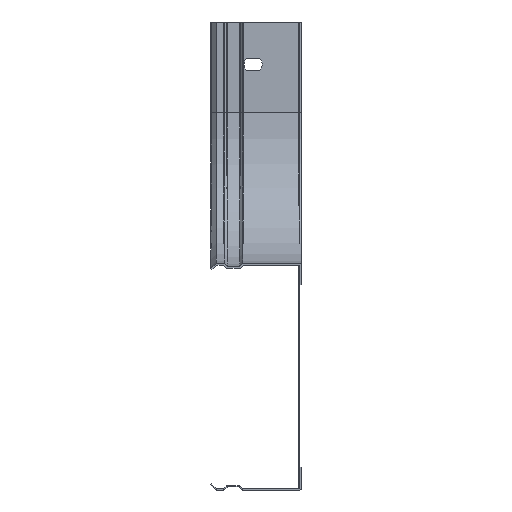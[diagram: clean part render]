
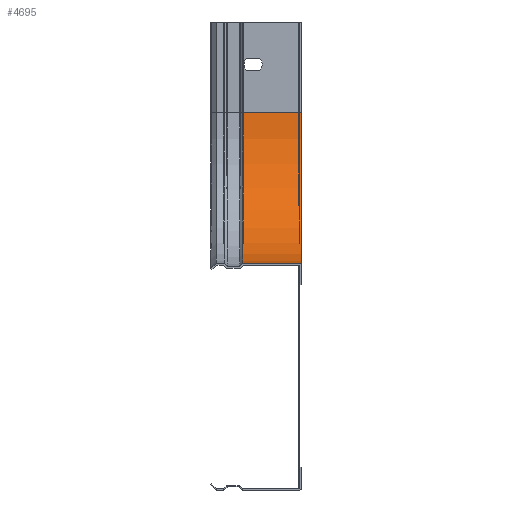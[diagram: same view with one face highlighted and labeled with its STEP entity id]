
A CAD part, left-side view. The second image highlights one B-rep face of the part: STEP entity #4695.
In plain terms, the highlighted cylindrical face has radius 100 mm (diameter 200 mm), a partial arc.
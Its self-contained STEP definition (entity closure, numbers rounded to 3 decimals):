
#460 = ORIENTED_EDGE ( 'NONE', *, *, #1258, .T. ) ;
#483 = CARTESIAN_POINT ( 'NONE',  ( -60., 0., 160. ) ) ;
#685 = ORIENTED_EDGE ( 'NONE', *, *, #2472, .T. ) ;
#740 = CARTESIAN_POINT ( 'NONE',  ( -60., 0., 60. ) ) ;
#857 = VECTOR ( 'NONE', #2926, 1000. ) ;
#858 = DIRECTION ( 'NONE',  ( 0., -1., 0. ) ) ;
#1110 = CARTESIAN_POINT ( 'NONE',  ( -60., 39., 60. ) ) ;
#1248 = DIRECTION ( 'NONE',  ( 0., 0., -1. ) ) ;
#1258 = EDGE_CURVE ( 'NONE', #1353, #2935, #1376, .T. ) ;
#1353 = VERTEX_POINT ( 'NONE', #483 ) ;
#1376 = CIRCLE ( 'NONE', #6914, 100. ) ;
#1638 = AXIS2_PLACEMENT_3D ( 'NONE', #740, #858, #3035 ) ;
#1924 = CYLINDRICAL_SURFACE ( 'NONE', #1638, 100. ) ;
#1984 = EDGE_LOOP ( 'NONE', ( #2957, #460, #685, #3865 ) ) ;
#2467 = CARTESIAN_POINT ( 'NONE',  ( -160., 39., 60. ) ) ;
#2472 = EDGE_CURVE ( 'NONE', #2935, #6561, #5041, .T. ) ;
#2926 = DIRECTION ( 'NONE',  ( 0., 1., 0. ) ) ;
#2935 = VERTEX_POINT ( 'NONE', #6822 ) ;
#2957 = ORIENTED_EDGE ( 'NONE', *, *, #3839, .F. ) ;
#3035 = DIRECTION ( 'NONE',  ( 0., 0., -1. ) ) ;
#3062 = VECTOR ( 'NONE', #6509, 1000. ) ;
#3768 = AXIS2_PLACEMENT_3D ( 'NONE', #1110, #4504, #1248 ) ;
#3839 = EDGE_CURVE ( 'NONE', #1353, #5117, #4656, .T. ) ;
#3865 = ORIENTED_EDGE ( 'NONE', *, *, #5018, .F. ) ;
#4484 = CARTESIAN_POINT ( 'NONE',  ( -160., 0., 60. ) ) ;
#4504 = DIRECTION ( 'NONE',  ( 0., -1., 0. ) ) ;
#4656 = LINE ( 'NONE', #5961, #3062 ) ;
#4695 = ADVANCED_FACE ( 'NONE', ( #5957 ), #1924, .F. ) ;
#5018 = EDGE_CURVE ( 'NONE', #5117, #6561, #6940, .T. ) ;
#5041 = LINE ( 'NONE', #4484, #857 ) ;
#5117 = VERTEX_POINT ( 'NONE', #6380 ) ;
#5957 = FACE_OUTER_BOUND ( 'NONE', #1984, .T. ) ;
#5961 = CARTESIAN_POINT ( 'NONE',  ( -60., 0., 160. ) ) ;
#6095 = DIRECTION ( 'NONE',  ( 0., 0., -1. ) ) ;
#6133 = CARTESIAN_POINT ( 'NONE',  ( -60., 0., 60. ) ) ;
#6380 = CARTESIAN_POINT ( 'NONE',  ( -60., 39., 160. ) ) ;
#6509 = DIRECTION ( 'NONE',  ( 0., 1., 0. ) ) ;
#6561 = VERTEX_POINT ( 'NONE', #2467 ) ;
#6651 = DIRECTION ( 'NONE',  ( 0., -1., 0. ) ) ;
#6822 = CARTESIAN_POINT ( 'NONE',  ( -160., 0., 60. ) ) ;
#6914 = AXIS2_PLACEMENT_3D ( 'NONE', #6133, #6651, #6095 ) ;
#6940 = CIRCLE ( 'NONE', #3768, 100. ) ;
